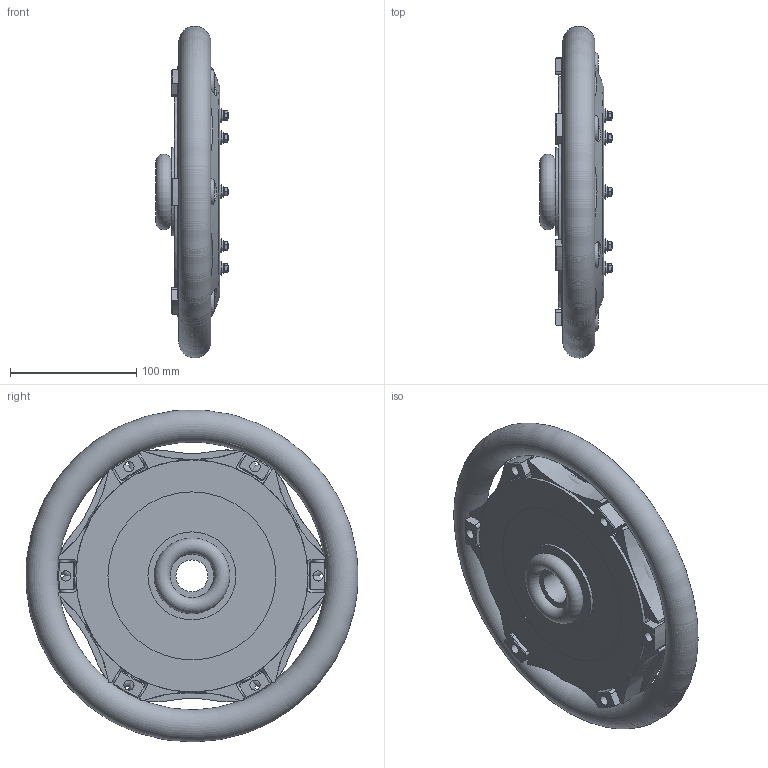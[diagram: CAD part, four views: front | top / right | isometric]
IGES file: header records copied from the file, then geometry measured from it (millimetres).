
Start section: C
Global section: file name: TILTON 66-002HG-AA.igs; native system: By Siemens PLM Incorporated; preprocessor: XPlus GENERIC/IGES 16.0.42; author: Author; organization: Title; date: 20150129.135539; units: inch
Bounding box: 57.49 x 263.4 x 263.36 mm (x, y, z)
Volume: 3363538.3 mm3; surface area: 609314.5 mm2
Topology: 1 solids, 1 shells, 726 faces, 1962 edges, 1266 vertices
Faces by surface type: plane 343, cylinder 306, cone 41, torus 36
Full cylindrical faces by diameter (mm): 4.572 x8, 4.902 x8, 8.077 x6, 8.128 x8, 9.093 x6, 11.176 x8, 25.4 x1, 69.85 x1, 97.472 x1, 114.3 x1, 133.35 x1, 184.15 x1
